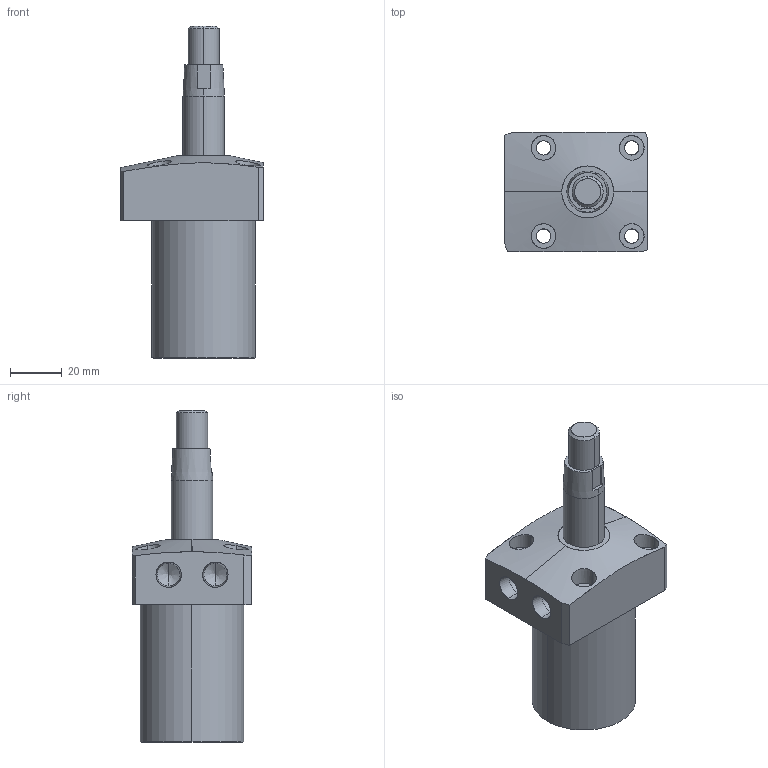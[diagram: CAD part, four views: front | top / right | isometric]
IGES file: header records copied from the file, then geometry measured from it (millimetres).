
Start section: SolidWorks IGES file using analytic representation for surfaces
Global section: file name: E:\ALL SSVT IGS MODEL\ALL-SWING-IGS\SWING-40\SWING-40-TOP-LH-RH\SC02-401-R-TOP.IGS; native system: SolidWorks 2019; preprocessor: SolidWorks 2019; author: SSVT; date: 210822.104645; units: millimetre
Bounding box: 55 x 46 x 128 mm (x, y, z)
Surface area: 25633.4 mm2 (no closed solid volume)
Topology: 0 solids, 0 shells, 73 faces, 1491 edges, 1487 vertices
Faces by surface type: revolution 48, bspline 25
